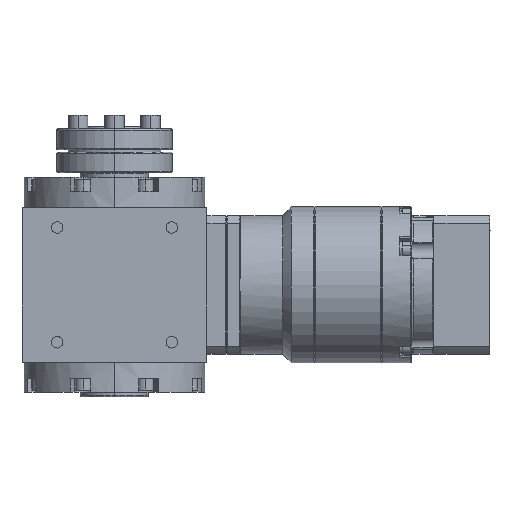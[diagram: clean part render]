
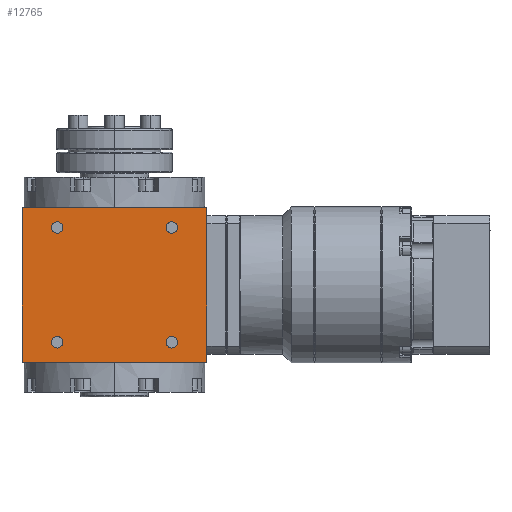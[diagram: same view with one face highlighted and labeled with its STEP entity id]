
A CAD part, left-side view. The second image highlights one B-rep face of the part: STEP entity #12765.
In plain terms, the highlighted planar face has unit normal (-1, 0, 0).
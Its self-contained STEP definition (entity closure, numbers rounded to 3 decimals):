
#289 = ORIENTED_EDGE ( 'NONE', *, *, #1732, .T. ) ;
#728 = VERTEX_POINT ( 'NONE', #30268 ) ;
#891 = AXIS2_PLACEMENT_3D ( 'NONE', #2096, #14805, #5638 ) ;
#943 = DIRECTION ( 'NONE',  ( 1., 0., 0. ) ) ;
#978 = ORIENTED_EDGE ( 'NONE', *, *, #29200, .T. ) ;
#1732 = EDGE_CURVE ( 'NONE', #19071, #13307, #35147, .T. ) ;
#2096 = CARTESIAN_POINT ( 'NONE',  ( -40., -24.815, 24.815 ) ) ;
#2213 = VERTEX_POINT ( 'NONE', #11473 ) ;
#2364 = DIRECTION ( 'NONE',  ( 0., -1., 0. ) ) ;
#2475 = CARTESIAN_POINT ( 'NONE',  ( -40., 0., -33.5 ) ) ;
#2619 = ORIENTED_EDGE ( 'NONE', *, *, #36399, .T. ) ;
#2682 = EDGE_CURVE ( 'NONE', #29404, #35828, #31001, .T. ) ;
#3254 = ORIENTED_EDGE ( 'NONE', *, *, #31831, .F. ) ;
#3596 = AXIS2_PLACEMENT_3D ( 'NONE', #19778, #29556, #6857 ) ;
#4081 = VERTEX_POINT ( 'NONE', #25002 ) ;
#4355 = CARTESIAN_POINT ( 'NONE',  ( -40., 40., -33.5 ) ) ;
#4428 = DIRECTION ( 'NONE',  ( 0., -1., 0. ) ) ;
#4522 = FACE_OUTER_BOUND ( 'NONE', #17555, .T. ) ;
#4937 = FACE_BOUND ( 'NONE', #12262, .T. ) ;
#5041 = CARTESIAN_POINT ( 'NONE',  ( -40., 27.315, -24.815 ) ) ;
#5402 = CARTESIAN_POINT ( 'NONE',  ( -40., 24.815, -24.815 ) ) ;
#5638 = DIRECTION ( 'NONE',  ( 0., -1., 0. ) ) ;
#5795 = DIRECTION ( 'NONE',  ( 0., -1., 0. ) ) ;
#5926 = CIRCLE ( 'NONE', #11251, 2.5 ) ;
#6031 = AXIS2_PLACEMENT_3D ( 'NONE', #15383, #40788, #24964 ) ;
#6857 = DIRECTION ( 'NONE',  ( 0., -1., 0. ) ) ;
#7126 = EDGE_CURVE ( 'NONE', #29404, #35082, #17067, .T. ) ;
#7142 = CARTESIAN_POINT ( 'NONE',  ( -40., 24.815, 24.815 ) ) ;
#7255 = CARTESIAN_POINT ( 'NONE',  ( -40., 40., -33.5 ) ) ;
#7381 = EDGE_CURVE ( 'NONE', #26431, #21825, #36608, .T. ) ;
#7488 = CIRCLE ( 'NONE', #891, 2.5 ) ;
#9416 = CARTESIAN_POINT ( 'NONE',  ( -40., -40., -33.5 ) ) ;
#9577 = CIRCLE ( 'NONE', #3596, 2.5 ) ;
#9649 = VECTOR ( 'NONE', #5795, 1000. ) ;
#10142 = CARTESIAN_POINT ( 'NONE',  ( -40., 22.315, -24.815 ) ) ;
#10280 = ORIENTED_EDGE ( 'NONE', *, *, #7381, .T. ) ;
#10844 = ORIENTED_EDGE ( 'NONE', *, *, #7126, .F. ) ;
#11251 = AXIS2_PLACEMENT_3D ( 'NONE', #20001, #13566, #38350 ) ;
#11473 = CARTESIAN_POINT ( 'NONE',  ( -40., -27.315, 24.815 ) ) ;
#12262 = EDGE_LOOP ( 'NONE', ( #17634, #28881 ) ) ;
#12590 = CARTESIAN_POINT ( 'NONE',  ( -40., 22.315, 24.815 ) ) ;
#12685 = CIRCLE ( 'NONE', #17981, 2.5 ) ;
#12765 = ADVANCED_FACE ( 'NONE', ( #4522, #36574, #20554, #33480, #4937 ), #17647, .T. ) ;
#13307 = VERTEX_POINT ( 'NONE', #34033 ) ;
#13395 = DIRECTION ( 'NONE',  ( 1., 0., 0. ) ) ;
#13566 = DIRECTION ( 'NONE',  ( 1., 0., 0. ) ) ;
#13575 = EDGE_CURVE ( 'NONE', #34953, #4081, #16757, .T. ) ;
#14068 = CIRCLE ( 'NONE', #36032, 2.5 ) ;
#14338 = VECTOR ( 'NONE', #27477, 1000. ) ;
#14564 = ORIENTED_EDGE ( 'NONE', *, *, #17278, .T. ) ;
#14805 = DIRECTION ( 'NONE',  ( 1., 0., 0. ) ) ;
#15383 = CARTESIAN_POINT ( 'NONE',  ( -40., 24.815, -24.815 ) ) ;
#16757 = CIRCLE ( 'NONE', #38696, 2.5 ) ;
#16827 = DIRECTION ( 'NONE',  ( 0., -1., 0. ) ) ;
#16886 = AXIS2_PLACEMENT_3D ( 'NONE', #39096, #30141, #16827 ) ;
#17067 = LINE ( 'NONE', #7255, #34582 ) ;
#17278 = EDGE_CURVE ( 'NONE', #13307, #19071, #9577, .T. ) ;
#17555 = EDGE_LOOP ( 'NONE', ( #10844, #29463, #19319, #3254 ) ) ;
#17634 = ORIENTED_EDGE ( 'NONE', *, *, #13575, .T. ) ;
#17647 = PLANE ( 'NONE',  #16886 ) ;
#17981 = AXIS2_PLACEMENT_3D ( 'NONE', #5402, #21667, #30603 ) ;
#18909 = CARTESIAN_POINT ( 'NONE',  ( -40., -40., -33.5 ) ) ;
#19071 = VERTEX_POINT ( 'NONE', #26397 ) ;
#19319 = ORIENTED_EDGE ( 'NONE', *, *, #21390, .F. ) ;
#19778 = CARTESIAN_POINT ( 'NONE',  ( -40., -24.815, -24.815 ) ) ;
#19883 = EDGE_LOOP ( 'NONE', ( #14564, #289 ) ) ;
#20001 = CARTESIAN_POINT ( 'NONE',  ( -40., 24.815, 24.815 ) ) ;
#20554 = FACE_BOUND ( 'NONE', #19883, .T. ) ;
#21293 = CARTESIAN_POINT ( 'NONE',  ( -40., -24.815, 24.815 ) ) ;
#21390 = EDGE_CURVE ( 'NONE', #29366, #35828, #37929, .T. ) ;
#21667 = DIRECTION ( 'NONE',  ( 1., 0., 0. ) ) ;
#21825 = VERTEX_POINT ( 'NONE', #10142 ) ;
#24014 = EDGE_LOOP ( 'NONE', ( #2619, #978 ) ) ;
#24964 = DIRECTION ( 'NONE',  ( 0., -1., 0. ) ) ;
#25002 = CARTESIAN_POINT ( 'NONE',  ( -40., 27.315, 24.815 ) ) ;
#26397 = CARTESIAN_POINT ( 'NONE',  ( -40., -22.315, -24.815 ) ) ;
#26431 = VERTEX_POINT ( 'NONE', #5041 ) ;
#27477 = DIRECTION ( 'NONE',  ( 0., -1., 0. ) ) ;
#28503 = ORIENTED_EDGE ( 'NONE', *, *, #35204, .T. ) ;
#28881 = ORIENTED_EDGE ( 'NONE', *, *, #40700, .T. ) ;
#29200 = EDGE_CURVE ( 'NONE', #728, #2213, #7488, .T. ) ;
#29366 = VERTEX_POINT ( 'NONE', #32290 ) ;
#29404 = VERTEX_POINT ( 'NONE', #4355 ) ;
#29463 = ORIENTED_EDGE ( 'NONE', *, *, #2682, .T. ) ;
#29465 = EDGE_LOOP ( 'NONE', ( #28503, #10280 ) ) ;
#29556 = DIRECTION ( 'NONE',  ( 1., 0., 0. ) ) ;
#30141 = DIRECTION ( 'NONE',  ( -1., 0., 0. ) ) ;
#30175 = DIRECTION ( 'NONE',  ( 0., 0., 1. ) ) ;
#30268 = CARTESIAN_POINT ( 'NONE',  ( -40., -22.315, 24.815 ) ) ;
#30456 = DIRECTION ( 'NONE',  ( 1., 0., 0. ) ) ;
#30603 = DIRECTION ( 'NONE',  ( 0., -1., 0. ) ) ;
#31001 = LINE ( 'NONE', #2475, #9649 ) ;
#31831 = EDGE_CURVE ( 'NONE', #35082, #29366, #33921, .T. ) ;
#32290 = CARTESIAN_POINT ( 'NONE',  ( -40., -40., 33.5 ) ) ;
#33480 = FACE_BOUND ( 'NONE', #24014, .T. ) ;
#33921 = LINE ( 'NONE', #40382, #14338 ) ;
#34033 = CARTESIAN_POINT ( 'NONE',  ( -40., -27.315, -24.815 ) ) ;
#34485 = AXIS2_PLACEMENT_3D ( 'NONE', #38274, #943, #35145 ) ;
#34582 = VECTOR ( 'NONE', #30175, 1000. ) ;
#34953 = VERTEX_POINT ( 'NONE', #12590 ) ;
#35047 = VECTOR ( 'NONE', #36252, 1000. ) ;
#35082 = VERTEX_POINT ( 'NONE', #35275 ) ;
#35145 = DIRECTION ( 'NONE',  ( 0., -1., 0. ) ) ;
#35147 = CIRCLE ( 'NONE', #34485, 2.5 ) ;
#35204 = EDGE_CURVE ( 'NONE', #21825, #26431, #12685, .T. ) ;
#35275 = CARTESIAN_POINT ( 'NONE',  ( -40., 40., 33.5 ) ) ;
#35828 = VERTEX_POINT ( 'NONE', #18909 ) ;
#36032 = AXIS2_PLACEMENT_3D ( 'NONE', #21293, #30456, #2364 ) ;
#36252 = DIRECTION ( 'NONE',  ( 0., 0., -1. ) ) ;
#36399 = EDGE_CURVE ( 'NONE', #2213, #728, #14068, .T. ) ;
#36574 = FACE_BOUND ( 'NONE', #29465, .T. ) ;
#36608 = CIRCLE ( 'NONE', #6031, 2.5 ) ;
#37929 = LINE ( 'NONE', #9416, #35047 ) ;
#38274 = CARTESIAN_POINT ( 'NONE',  ( -40., -24.815, -24.815 ) ) ;
#38350 = DIRECTION ( 'NONE',  ( 0., -1., 0. ) ) ;
#38696 = AXIS2_PLACEMENT_3D ( 'NONE', #7142, #13395, #4428 ) ;
#39096 = CARTESIAN_POINT ( 'NONE',  ( -40., 40., -33.5 ) ) ;
#40382 = CARTESIAN_POINT ( 'NONE',  ( -40., 0., 33.5 ) ) ;
#40700 = EDGE_CURVE ( 'NONE', #4081, #34953, #5926, .T. ) ;
#40788 = DIRECTION ( 'NONE',  ( 1., 0., 0. ) ) ;
